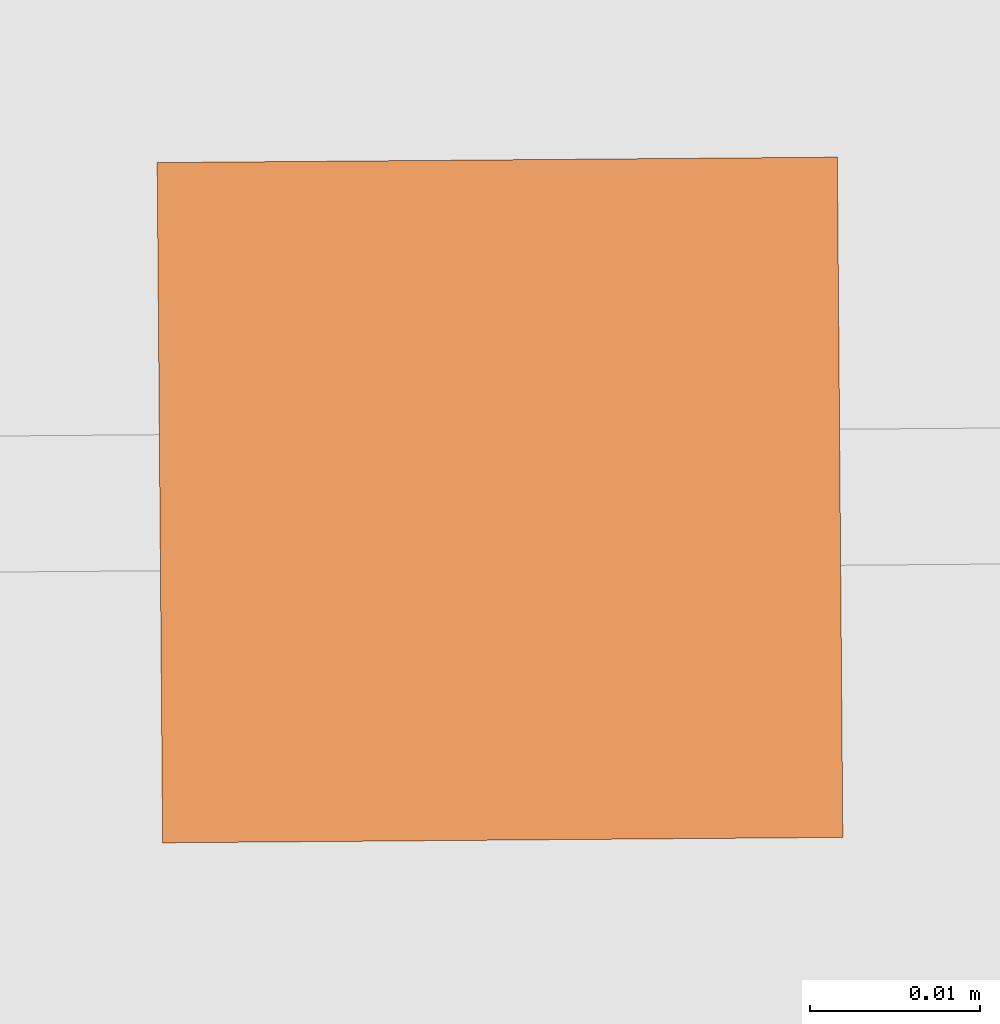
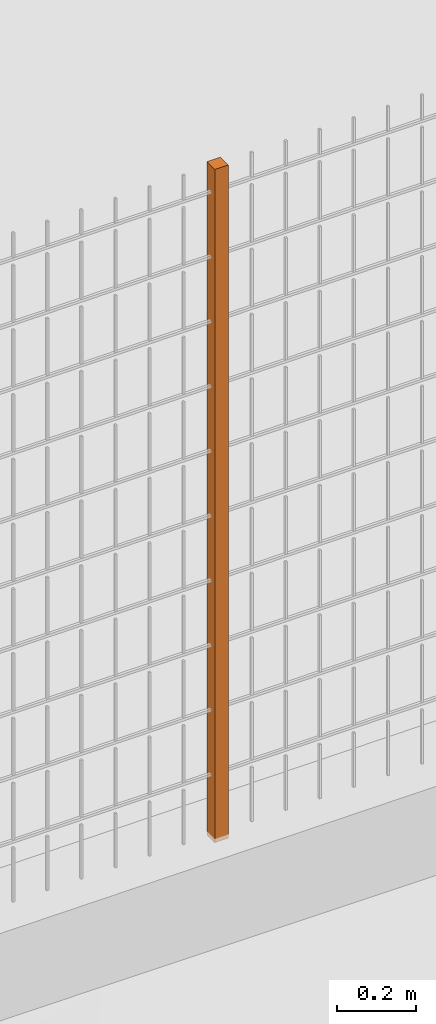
# One storey, part 13 of 1809: 1 proxy, 1 element without a shape of its own.
"""IFC2X3 building model written with IfcOpenShell, lengths in millimetres."""

import ifcopenshell
import ifcopenshell.guid

model = None  # the IFC model being written
_history = None  # IfcOwnerHistory: only IFC2X3 demands one
_inside = {}  # id of a spatial element -> (the spatial element, [elements in it])
_under = {}  # id of a project, library or spatial element -> (it, [spatial elements below it])
_declared = {}  # id of a project -> (the project, [libraries it declares])
_typed = {}  # id of a type object -> (the type object, [elements of that type])
_made_of = {}  # id of a material, layer set ... -> (it, [elements and type objects made of it])


def new_model(schema):
    """Start an empty IFC model of exactly this schema.

    Asked for "IFC4X3", IfcOpenShell would pick the latest addendum, in which some entities
    have other attributes; the version numbers below select the first issue.
    IFC2X3 requires an IfcOwnerHistory on every rooted entity: one is made here for all.
    """
    global model, _history
    if schema == "IFC4X3":
        model = ifcopenshell.file(schema_version=(4, 3, 0, 0))
    else:
        model = ifcopenshell.file(schema=schema)
    _inside.clear()
    _under.clear()
    _declared.clear()
    _typed.clear()
    _made_of.clear()
    _history = None
    if model.schema == "IFC2X3":
        org = make("IfcOrganization", Name="unknown")
        user = make(
            "IfcPersonAndOrganization",
            ThePerson=make("IfcPerson", FamilyName="unknown"),
            TheOrganization=org,
        )
        app = make(
            "IfcApplication",
            ApplicationDeveloper=org,
            Version="unknown",
            ApplicationFullName="unknown",
            ApplicationIdentifier="unknown",
        )
        _history = make(
            "IfcOwnerHistory",
            OwningUser=user,
            OwningApplication=app,
            ChangeAction="ADDED",
            CreationDate=0,
        )
    return model


def make(cls, **values):
    """One entity of the class cls with the attributes given. An attribute that is None is left unset."""
    return model.create_entity(
        cls, **{name: value for name, value in values.items() if value is not None}
    )


def entity(cls, *values):
    """Any entity or typed value of the class cls, its attributes in the order of the schema. None: left unset."""
    e = model.create_entity(cls)
    for i, value in enumerate(values):
        if value is not None:
            e[i] = value
    return e


def rooted(cls, **values):
    """An entity with a GlobalId (a new one), such as an element, a storey or a relation."""
    return make(cls, GlobalId=ifcopenshell.guid.new(), OwnerHistory=_history, **values)


def si_unit(unit_type, name, prefix=None):
    """IfcSIUnit, for example si_unit("LENGTHUNIT", "METRE", prefix="MILLI")."""
    return make("IfcSIUnit", UnitType=unit_type, Prefix=prefix, Name=name)


def converted_unit(unit_type, name, factor, base, dimensions=None, offset=None):
    """IfcConversionBasedUnit, such as the inch: factor (a typed value) times the base unit."""
    return make(
        "IfcConversionBasedUnit"
        if offset is None
        else "IfcConversionBasedUnitWithOffset",
        ConversionOffset=offset,
        Dimensions=None
        if dimensions is None
        else entity("IfcDimensionalExponents", *dimensions),
        UnitType=unit_type,
        Name=name,
        ConversionFactor=make(
            "IfcMeasureWithUnit", ValueComponent=factor, UnitComponent=base
        ),
    )


def derived_unit(unit_type, elements):
    """IfcDerivedUnit: a product of units, each with its exponent."""
    return make(
        "IfcDerivedUnit",
        Elements=[
            make("IfcDerivedUnitElement", Unit=unit, Exponent=power)
            for unit, power in elements
        ],
        UnitType=unit_type,
    )


def money_unit(currency):
    """IfcMonetaryUnit."""
    return make("IfcMonetaryUnit", Currency=currency)


def assignment(units):
    """IfcUnitAssignment: the units of a project."""
    return None if units is None else make("IfcUnitAssignment", Units=units)


def point(xyz):
    """IfcCartesianPoint."""
    return None if xyz is None else make("IfcCartesianPoint", Coordinates=xyz)


def direction(xyz):
    """IfcDirection."""
    return None if xyz is None else make("IfcDirection", DirectionRatios=xyz)


def frame(location, z_axis=None, x_axis=None):
    """IfcAxis2Placement3D, a coordinate frame: its origin and axes. An axis left out is left unset."""
    return make(
        "IfcAxis2Placement3D",
        Location=point(location),
        Axis=direction(z_axis),
        RefDirection=direction(x_axis),
    )


def origin_with_axes():
    """The frame at (0, 0, 0) with the z axis (0, 0, 1) and the x axis (1, 0, 0) written out."""
    return frame((0.0, 0.0, 0.0), z_axis=(0.0, 0.0, 1.0), x_axis=(1.0, 0.0, 0.0))


def place(relative_to, where):
    """IfcLocalPlacement: puts the frame where relative to a parent placement (None: the world)."""
    return make(
        "IfcLocalPlacement", PlacementRelTo=relative_to, RelativePlacement=where
    )


def context(
    kind, dimensions, precision=None, world=None, true_north=None, identifier=None
):
    """IfcGeometricRepresentationContext, for example the 3D "Model" context."""
    return make(
        "IfcGeometricRepresentationContext",
        ContextIdentifier=identifier,
        ContextType=kind,
        CoordinateSpaceDimension=dimensions,
        Precision=precision,
        WorldCoordinateSystem=world,
        TrueNorth=true_north,
    )


def subcontext(parent, identifier, kind, view, scale=None):
    """IfcGeometricRepresentationSubContext, for example "Body" below "Model"."""
    return make(
        "IfcGeometricRepresentationSubContext",
        ContextIdentifier=identifier,
        ContextType=kind,
        ParentContext=parent,
        TargetScale=scale,
        TargetView=view,
    )


def project(units=None, contexts=None):
    """IfcProject with its units and contexts."""
    return rooted(
        "IfcProject",
        Name="project",
        RepresentationContexts=contexts,
        UnitsInContext=assignment(units),
    )


def spatial(cls, under=None, at=None, **own):
    """A site, building, storey or space (cls), placed at a placement, below another one or the project."""
    s = rooted(cls, ObjectPlacement=at, **own)
    if under is not None:
        _under.setdefault(under.id(), (under, []))[1].append(s)
    return s


def faces_of(points, faces, orient=None, outer=None):
    """IfcFace entities. A face is a list of loops; a loop is a list of indices into points, from 0.

    orient and outer hold one flag for each loop. By default every Orientation is true, the
    first loop of a face is its IfcFaceOuterBound and the others are IfcFaceBound.
    """
    made = []
    for i, loops in enumerate(faces):
        bounds = []
        for j, loop in enumerate(loops):
            is_outer = j == 0 if outer is None else outer[i][j]
            bounds.append(
                make(
                    "IfcFaceOuterBound" if is_outer else "IfcFaceBound",
                    Bound=make("IfcPolyLoop", Polygon=[points[k] for k in loop]),
                    Orientation=True if orient is None else orient[i][j],
                )
            )
        made.append(make("IfcFace", Bounds=bounds))
    return made


def faceted_brep(points, faces, orient=None, outer=None, voids=None):
    """IfcFacetedBrep: a solid bounded by flat faces; with voids (closed shells), ...WithVoids."""
    shared = [point(p) for p in points]
    hull = make("IfcClosedShell", CfsFaces=faces_of(shared, faces, orient, outer))
    if voids is None:
        return make("IfcFacetedBrep", Outer=hull)
    return make(
        "IfcFacetedBrepWithVoids",
        Outer=hull,
        Voids=[
            make(cls, CfsFaces=faces_of(shared, fs, o, b)) for cls, fs, o, b in voids
        ],
    )


def shape(context_of_items, identifier, shape_type, items):
    """IfcShapeRepresentation: the items that make up one representation, for example the "Body"."""
    return make(
        "IfcShapeRepresentation",
        ContextOfItems=context_of_items,
        RepresentationIdentifier=identifier,
        RepresentationType=shape_type,
        Items=items,
    )


def source(mapping_origin, context_of_items, identifier, shape_type, items):
    """IfcRepresentationMap: a shape defined once, which mapped items show again and again."""
    return make(
        "IfcRepresentationMap",
        MappingOrigin=mapping_origin,
        MappedRepresentation=shape(context_of_items, identifier, shape_type, items),
    )


def transform(
    local_origin,
    x_axis=None,
    y_axis=None,
    z_axis=None,
    scale=None,
    scale2=None,
    scale3=None,
    uniform=True,
):
    """IfcCartesianTransformationOperator3D, or its non-uniform kind. x_axis, y_axis, z_axis: its Axis1, 2, 3."""
    if uniform:
        return make(
            "IfcCartesianTransformationOperator3D",
            Axis1=direction(x_axis),
            Axis2=direction(y_axis),
            LocalOrigin=point(local_origin),
            Scale=scale,
            Axis3=direction(z_axis),
        )
    return make(
        "IfcCartesianTransformationOperator3DnonUniform",
        Axis1=direction(x_axis),
        Axis2=direction(y_axis),
        LocalOrigin=point(local_origin),
        Scale=scale,
        Axis3=direction(z_axis),
        Scale2=scale2,
        Scale3=scale3,
    )


def mapped(mapping_source, mapping_target):
    """IfcMappedItem: shows the shape of a source again, moved by a transform."""
    return make(
        "IfcMappedItem", MappingSource=mapping_source, MappingTarget=mapping_target
    )


def material(Name=None, Category=None):
    """IfcMaterial."""
    return make("IfcMaterial", Name=Name, Category=Category)


def made_of(thing, what):
    """Note that an element or type object is made of a material, layer set ...; save() writes the relation."""
    if what is not None:
        _made_of.setdefault(what.id(), (what, []))[1].append(thing)
    return thing


def type_object(cls, material=None, **own):
    """A type object (cls), such as IfcWallType, which elements share."""
    return made_of(rooted(cls, **own), material)


def element(
    cls,
    number,
    at=None,
    inside=None,
    cuts=None,
    type_object=None,
    material=None,
    context=None,
    identifier="Body",
    shape_type=None,
    held_by="IfcProductDefinitionShape",
    body=None,
    shapes=None,
    **own,
):
    """One element of the class cls, such as IfcWall. Its Tag is "e" and its number.

    at: its placement. inside: the storey or other place that contains it. cuts: it is an
    opening in that element (IfcRelVoidsElement). A single representation is given by context,
    identifier, shape_type and body (its items); several are given by shapes. held_by: the class
    of the entity that holds the representations. save() writes the other relations.
    """
    e = rooted(cls, Tag="e%d" % number, ObjectPlacement=at, **own)
    if body is not None:
        shapes = [shape(context, identifier, shape_type, body)]
    if shapes is not None:
        e.Representation = make(held_by, Representations=shapes)
    if inside is not None:
        _inside.setdefault(inside.id(), (inside, []))[1].append(e)
    if cuts is not None:
        rooted(
            "IfcRelVoidsElement", RelatingBuildingElement=cuts, RelatedOpeningElement=e
        )
    if type_object is not None:
        _typed.setdefault(type_object.id(), (type_object, []))[1].append(e)
    return made_of(e, material)


def aggregate(whole, parts):
    """IfcRelAggregates: a whole, such as a stair, and the parts it consists of."""
    return rooted("IfcRelAggregates", RelatingObject=whole, RelatedObjects=parts)


def save(model, path):
    """Write the relations noted so far, then the file.

    IfcRelAggregates (storeys below a building ...), IfcRelContainedInSpatialStructure (elements
    in a storey), IfcRelDefinesByType, IfcRelAssociatesMaterial and IfcRelDeclares: one each for
    every whole, place, type object, material and project.
    """
    for whole, parts in _under.values():
        aggregate(whole, parts)
    for where, things in _inside.values():
        rooted(
            "IfcRelContainedInSpatialStructure",
            RelatedElements=things,
            RelatingStructure=where,
        )
    for kind, things in _typed.values():
        rooted("IfcRelDefinesByType", RelatedObjects=things, RelatingType=kind)
    for what, things in _made_of.values():
        rooted("IfcRelAssociatesMaterial", RelatedObjects=things, RelatingMaterial=what)
    for by, libraries in _declared.values():
        rooted("IfcRelDeclares", RelatingContext=by, RelatedDefinitions=libraries)
    model.write(path)


model = new_model("IFC2X3")

# Units and contexts
model_context = context("Model", 3, precision=0.01, world=origin_with_axes(), true_north=direction((0.0, 1.0)))
body_context = subcontext(model_context, "Body", "Model", "MODEL_VIEW")
ifc_project = project(units=[si_unit("LENGTHUNIT", "METRE", prefix="MILLI"), si_unit("AREAUNIT", "SQUARE_METRE"), si_unit("VOLUMEUNIT", "CUBIC_METRE"), converted_unit("PLANEANGLEUNIT", "DEGREE", entity("IfcPlaneAngleMeasure", 0.0174532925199), si_unit("PLANEANGLEUNIT", "RADIAN"), dimensions=[0, 0, 0, 0, 0, 0, 0]), si_unit("SOLIDANGLEUNIT", "STERADIAN"), money_unit("EUR"), converted_unit("TIMEUNIT", "Year", entity("IfcTimeMeasure", 31556926.0), si_unit("TIMEUNIT", "SECOND"), dimensions=[0, 0, 1, 0, 0, 0, 0]), si_unit("MASSUNIT", "GRAM", prefix="KILO"), si_unit("THERMODYNAMICTEMPERATUREUNIT", "DEGREE_CELSIUS"), si_unit("LUMINOUSINTENSITYUNIT", "LUMEN"), si_unit("ENERGYUNIT", "JOULE", prefix="MEGA"), derived_unit("THERMALCONDUCTANCEUNIT", [(si_unit("POWERUNIT", "WATT"), 1), (si_unit("LENGTHUNIT", "METRE"), -1), (si_unit("THERMODYNAMICTEMPERATUREUNIT", "KELVIN"), -1)]), derived_unit("SPECIFICHEATCAPACITYUNIT", [(si_unit("ENERGYUNIT", "JOULE"), 1), (si_unit("MASSUNIT", "GRAM", prefix="KILO"), -1), (si_unit("THERMODYNAMICTEMPERATUREUNIT", "KELVIN"), -1)]), derived_unit("MASSDENSITYUNIT", [(si_unit("MASSUNIT", "GRAM", prefix="KILO"), 1), (si_unit("VOLUMEUNIT", "CUBIC_METRE"), -1)])], contexts=[model_context])

# Site, building, storey
site_placement = place(None, origin_with_axes())
site = spatial("IfcSite", under=ifc_project, at=site_placement, Name="Politse- ja Piirivalveameti ning Päästeameti ühishoone", CompositionType="ELEMENT")
building_placement = place(site_placement, origin_with_axes())
building = spatial("IfcBuilding", under=site, at=building_placement, Name="Politse- ja Piirivalveameti ning Päästeameti ühishoone", CompositionType="ELEMENT")
storey_placement = place(building_placement, origin_with_axes())
storey = spatial("IfcBuildingStorey", under=building, at=storey_placement, Name="Esimene korrus", CompositionType="ELEMENT", Elevation=0.0)

# Proxies
building_element_proxy_type_1 = type_object("IfcBuildingElementProxyType", Name="Railing Type", PredefinedType="NOTDEFINED")
proxy_1_placement = place(storey_placement, frame((89104.1814532, -600.085881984, 164.131942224), z_axis=(0.0, 0.0, 1.0), x_axis=(1.0, 0.0, 0.0)))
proxy_1 = element("IfcBuildingElementProxy", 1, at=proxy_1_placement, inside=storey, type_object=building_element_proxy_type_1, Name="PIIRDEAED")
ifc_material = material(Name="ET-03_Raud")
building_element_proxy_type_2 = type_object("IfcBuildingElementProxyType", Name="IfcBuildingElementProxy", PredefinedType="NOTDEFINED")
shared_shape = source(origin_with_axes(), body_context, "Body", "Brep", [
    faceted_brep([(20.0, 20.0, 0.0), (-20.0, 20.0, 0.0), (-20.0, 20.0, 2080.0), (20.0, 20.0, 2080.0), (20.0, -20.0, 0.0), (-20.0, -20.0, 0.0), (-20.0, -20.0, 2080.0), (20.0, -20.0, 2080.0)], [[[0, 1, 2, 3]], [[0, 4, 5, 1]], [[1, 5, 6, 2]], [[3, 2, 6, 7]], [[4, 0, 3, 7]], [[5, 4, 7, 6]]]),
])
proxy_2_placement = place(proxy_1_placement, frame((-15587.6462868, 238.713099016, 0.0), z_axis=(0.0, 0.0, 1.0), x_axis=(1.0, 0.0, 0.0)))
proxy_2 = element("IfcBuildingElementProxy", 2, at=proxy_2_placement, type_object=building_element_proxy_type_2, material=ifc_material, Name="SISEPOST - 001", context=body_context, shape_type="MappedRepresentation", body=[
    mapped(shared_shape, transform((0.0, 0.0, 0.0), x_axis=(0.00803874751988, -0.999967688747, 0.0), y_axis=(0.999967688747, 0.00803874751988, 0.0), z_axis=(0.0, 0.0, 1.0))),
])
aggregate(proxy_1, [proxy_2])

save(model, "model.ifc")
